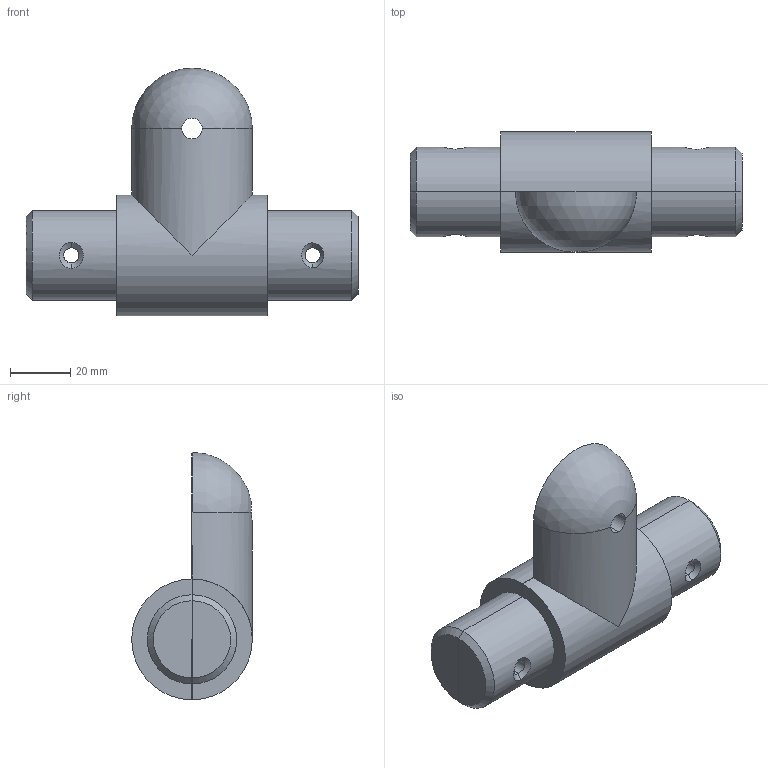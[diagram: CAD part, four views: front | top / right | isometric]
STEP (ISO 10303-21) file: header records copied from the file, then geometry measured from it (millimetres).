
FILE_DESCRIPTION (( 'STEP AP214' ), '1' );
FILE_NAME ('084.313.002.STEP', '2016-07-08T14:31:13', ( '' ), ( '' ), 'SwSTEP 2.0', 'SolidWorks 2016', '' );
FILE_SCHEMA (( 'AUTOMOTIVE_DESIGN' ));
Length unit declared in the file: millimetre
Products named in the file (3): 084.313.002; 084.313.002A; 084.313.002B
Assembly tree (2 placements, depth 2):
  084.313.002
    084.313.002A
    084.313.002B
Bounding box: 110 x 40 x 82 mm (x, y, z)
Volume: 69358.2 mm3; surface area: 38694.9 mm2
Topology: 2 solids, 2 shells, 372 faces, 858 edges, 486 vertices
Faces by surface type: cylinder 144, bspline 78, plane 61, torus 43, sphere 32, cone 14
Entity records: 17910 total; most frequent: CARTESIAN_POINT 9919, ORIENTED_EDGE 1664, DIRECTION 1626, EDGE_CURVE 832, AXIS2_PLACEMENT_3D 685, VERTEX_POINT 478, EDGE_LOOP 396, CIRCLE 386
